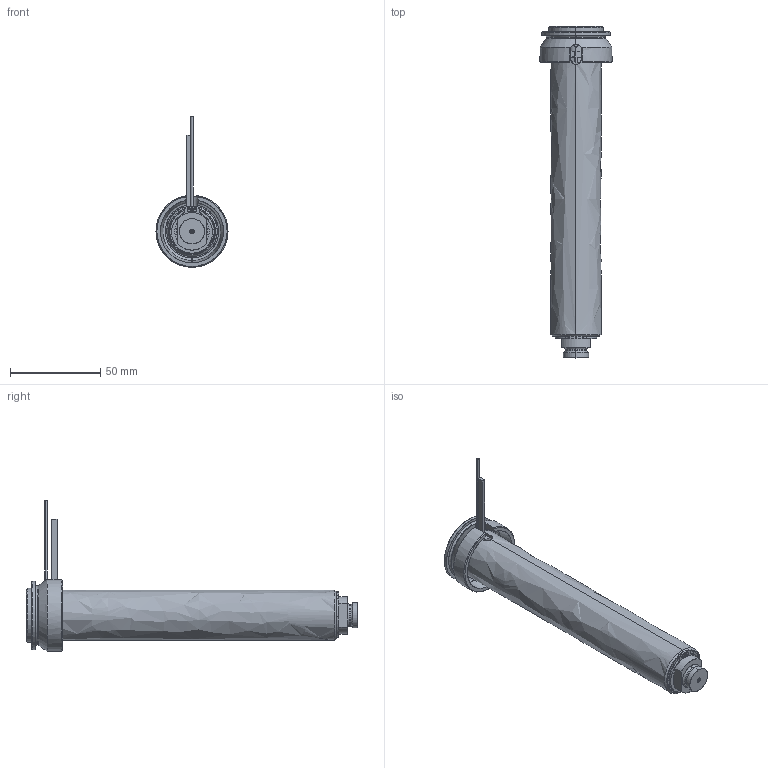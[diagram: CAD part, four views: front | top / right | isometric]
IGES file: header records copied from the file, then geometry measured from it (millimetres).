
Start section: SolidWorks IGES file using analytic representation for surfaces
Global section: file name: C:\Documents and Settings\ws-20\Desktop\TEM\UGEP4104-M-A-0 [Øf-1.17 P-0 ØC-09].IGS; native system: SolidWorks 2012; preprocessor: SolidWorks 2012; author: ws-20; date: 120426.085128; units: millimetre
Bounding box: 40 x 184.25 x 83.65 mm (x, y, z)
Surface area: 54413.5 mm2 (no closed solid volume)
Topology: 0 solids, 0 shells, 111 faces, 1860 edges, 1860 vertices
Faces by surface type: revolution 62, bspline 49
